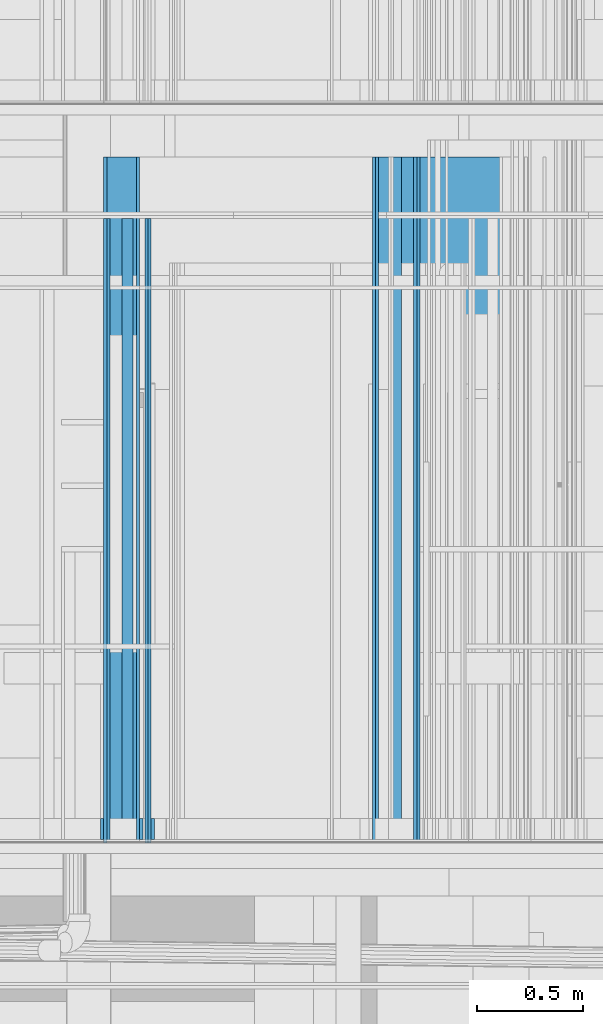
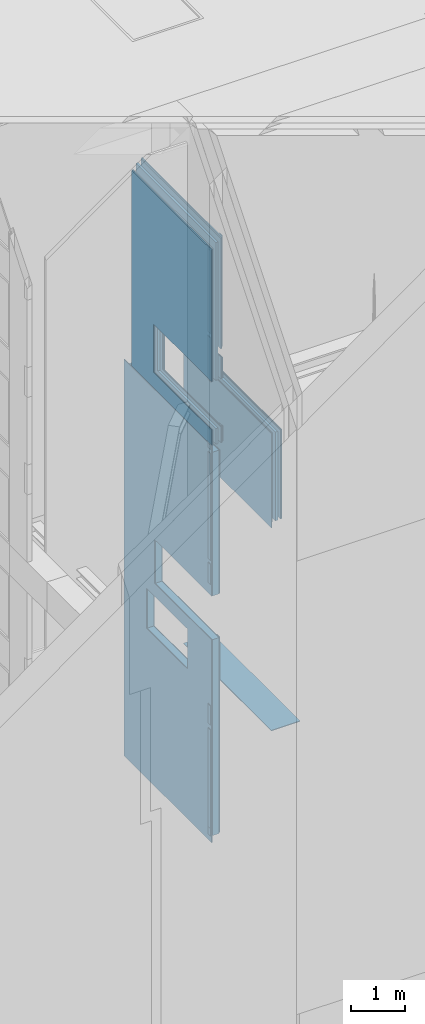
# One storey, part 65 of 583: 28 building element parts, 4 openings, 4 elements without a shape of their own.
"""IFC2X3 building model written with IfcOpenShell, lengths in metres."""

from ifc_helpers import new_model, entity, si_unit, converted_unit, derived_unit, money_unit, direction, frame, frame_2d, origin_with_axes, place, context, subcontext, project, spatial, polyline, rectangle, outline, extrude, material, type_object, element, aggregate, save


model = new_model("IFC2X3")

# Units and contexts
model_context = context("Model", 3, precision=1e-05, world=origin_with_axes(), true_north=direction((0.0, 1.0)))
body_context = subcontext(model_context, "Body", "Model", "MODEL_VIEW", scale=1.0)
ifc_project = project(units=[si_unit("LENGTHUNIT", "METRE"), si_unit("AREAUNIT", "SQUARE_METRE"), si_unit("VOLUMEUNIT", "CUBIC_METRE"), si_unit("ABSORBEDDOSEUNIT", "GRAY"), si_unit("AMOUNTOFSUBSTANCEUNIT", "MOLE"), si_unit("DOSEEQUIVALENTUNIT", "SIEVERT"), si_unit("ELECTRICCAPACITANCEUNIT", "FARAD"), si_unit("ELECTRICCHARGEUNIT", "COULOMB"), si_unit("ELECTRICCONDUCTANCEUNIT", "SIEMENS"), si_unit("ELECTRICCURRENTUNIT", "AMPERE"), si_unit("ELECTRICRESISTANCEUNIT", "OHM"), si_unit("ELECTRICVOLTAGEUNIT", "VOLT"), si_unit("ENERGYUNIT", "JOULE"), si_unit("FORCEUNIT", "NEWTON"), si_unit("FREQUENCYUNIT", "HERTZ"), si_unit("ILLUMINANCEUNIT", "LUX"), si_unit("INDUCTANCEUNIT", "HENRY"), si_unit("LUMINOUSFLUXUNIT", "LUMEN"), si_unit("LUMINOUSINTENSITYUNIT", "CANDELA"), si_unit("MAGNETICFLUXDENSITYUNIT", "TESLA"), si_unit("MAGNETICFLUXUNIT", "WEBER"), si_unit("MASSUNIT", "GRAM"), converted_unit("PLANEANGLEUNIT", "degree", entity("IfcReal", 0.0174532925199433), si_unit("PLANEANGLEUNIT", "RADIAN"), dimensions=[0, 0, 0, 0, 0, 0, 0]), si_unit("POWERUNIT", "WATT"), si_unit("PRESSUREUNIT", "PASCAL"), si_unit("RADIOACTIVITYUNIT", "BECQUEREL"), si_unit("SOLIDANGLEUNIT", "STERADIAN"), si_unit("THERMODYNAMICTEMPERATUREUNIT", "KELVIN"), si_unit("TIMEUNIT", "SECOND"), derived_unit("ACCELERATIONUNIT", [(si_unit("LENGTHUNIT", "METRE"), 1), (si_unit("TIMEUNIT", "SECOND"), -2)]), derived_unit("ANGULARVELOCITYUNIT", [(converted_unit("PLANEANGLEUNIT", "degree", entity("IfcReal", 0.0174532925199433), si_unit("PLANEANGLEUNIT", "RADIAN"), dimensions=[0, 0, 0, 0, 0, 0, 0]), 1), (si_unit("TIMEUNIT", "SECOND"), -1)]), derived_unit("CURVATUREUNIT", [(converted_unit("PLANEANGLEUNIT", "degree", entity("IfcReal", 0.0174532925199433), si_unit("PLANEANGLEUNIT", "RADIAN"), dimensions=[0, 0, 0, 0, 0, 0, 0]), 1), (si_unit("LENGTHUNIT", "METRE"), -1)]), derived_unit("DYNAMICVISCOSITYUNIT", [(si_unit("PRESSUREUNIT", "PASCAL"), 1), (si_unit("TIMEUNIT", "SECOND"), 1)]), derived_unit("HEATFLUXDENSITYUNIT", [(si_unit("POWERUNIT", "WATT"), 1), (si_unit("LENGTHUNIT", "METRE"), -2)]), derived_unit("HEATINGVALUEUNIT", [(si_unit("ENERGYUNIT", "JOULE"), 1), (si_unit("MASSUNIT", "GRAM"), -1)]), derived_unit("INTEGERCOUNTRATEUNIT", [(si_unit("TIMEUNIT", "SECOND"), -1)]), derived_unit("IONCONCENTRATIONUNIT", [(si_unit("MASSUNIT", "GRAM"), 1), (si_unit("VOLUMEUNIT", "CUBIC_METRE"), -1)]), derived_unit("ISOTHERMALMOISTURECAPACITYUNIT", [(si_unit("VOLUMEUNIT", "CUBIC_METRE"), 1), (si_unit("MASSUNIT", "GRAM"), -1)]), derived_unit("KINEMATICVISCOSITYUNIT", [(si_unit("AREAUNIT", "SQUARE_METRE"), 1), (si_unit("TIMEUNIT", "SECOND"), -1)]), derived_unit("LINEARFORCEUNIT", [(si_unit("FORCEUNIT", "NEWTON"), 1), (si_unit("LENGTHUNIT", "METRE"), -1)]), derived_unit("LINEARMOMENTUNIT", [(si_unit("FORCEUNIT", "NEWTON"), 1), (si_unit("LENGTHUNIT", "METRE"), -1)]), derived_unit("LINEARSTIFFNESSUNIT", [(si_unit("FORCEUNIT", "NEWTON"), 1), (si_unit("LENGTHUNIT", "METRE"), -1)]), derived_unit("LINEARVELOCITYUNIT", [(si_unit("LENGTHUNIT", "METRE"), 1), (si_unit("TIMEUNIT", "SECOND"), -1)]), derived_unit("LUMINOUSINTENSITYDISTRIBUTIONUNIT", [(si_unit("LUMINOUSINTENSITYUNIT", "CANDELA"), 1), (si_unit("LUMINOUSFLUXUNIT", "LUMEN"), -1)]), derived_unit("MASSDENSITYUNIT", [(si_unit("MASSUNIT", "GRAM"), 1), (si_unit("VOLUMEUNIT", "CUBIC_METRE"), -1)]), derived_unit("MASSFLOWRATEUNIT", [(si_unit("MASSUNIT", "GRAM"), 1), (si_unit("TIMEUNIT", "SECOND"), -1)]), derived_unit("MASSPERLENGTHUNIT", [(si_unit("MASSUNIT", "GRAM"), 1), (si_unit("LENGTHUNIT", "METRE"), -1)]), derived_unit("MODULUSOFELASTICITYUNIT", [(si_unit("FORCEUNIT", "NEWTON"), 1), (si_unit("AREAUNIT", "SQUARE_METRE"), -1)]), derived_unit("MODULUSOFLINEARSUBGRADEREACTIONUNIT", [(si_unit("FORCEUNIT", "NEWTON"), 1), (si_unit("LENGTHUNIT", "METRE"), -2)]), derived_unit("MODULUSOFROTATIONALSUBGRADEREACTIONUNIT", [(si_unit("FORCEUNIT", "NEWTON"), 1), (si_unit("LENGTHUNIT", "METRE"), 1)]), derived_unit("MODULUSOFSUBGRADEREACTIONUNIT", [(si_unit("FORCEUNIT", "NEWTON"), 1), (si_unit("VOLUMEUNIT", "CUBIC_METRE"), -1)]), derived_unit("MOISTUREDIFFUSIVITYUNIT", [(si_unit("VOLUMEUNIT", "CUBIC_METRE"), 1), (si_unit("TIMEUNIT", "SECOND"), -1)]), derived_unit("MOLECULARWEIGHTUNIT", [(si_unit("MASSUNIT", "GRAM"), 1), (si_unit("AMOUNTOFSUBSTANCEUNIT", "MOLE"), -1)]), derived_unit("PLANARFORCEUNIT", [(si_unit("FORCEUNIT", "NEWTON"), 1), (si_unit("LENGTHUNIT", "METRE"), -2)]), derived_unit("ROTATIONALFREQUENCYUNIT", [(si_unit("TIMEUNIT", "SECOND"), -1)]), derived_unit("ROTATIONALMASSUNIT", [(si_unit("MASSUNIT", "GRAM"), 1), (si_unit("LENGTHUNIT", "METRE"), 2)]), derived_unit("ROTATIONALSTIFFNESSUNIT", [(si_unit("FORCEUNIT", "NEWTON"), 1), (si_unit("LENGTHUNIT", "METRE"), 1), (converted_unit("PLANEANGLEUNIT", "degree", entity("IfcReal", 0.0174532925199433), si_unit("PLANEANGLEUNIT", "RADIAN"), dimensions=[0, 0, 0, 0, 0, 0, 0]), -1)]), derived_unit("SECTIONAREAINTEGRALUNIT", [(si_unit("LENGTHUNIT", "METRE"), 5)]), derived_unit("SECTIONMODULUSUNIT", [(si_unit("LENGTHUNIT", "METRE"), 3)]), derived_unit("SHEARMODULUSUNIT", [(si_unit("FORCEUNIT", "NEWTON"), 1), (si_unit("AREAUNIT", "SQUARE_METRE"), -1)]), derived_unit("SOUNDPOWERUNIT", [(si_unit("ENERGYUNIT", "JOULE"), 1), (si_unit("TIMEUNIT", "SECOND"), -1)]), derived_unit("SPECIFICHEATCAPACITYUNIT", [(si_unit("FORCEUNIT", "NEWTON"), 1), (si_unit("MASSUNIT", "GRAM"), -1), (si_unit("THERMODYNAMICTEMPERATUREUNIT", "KELVIN"), -1)]), derived_unit("TEMPERATUREGRADIENTUNIT", [(si_unit("THERMODYNAMICTEMPERATUREUNIT", "KELVIN"), 1), (si_unit("LENGTHUNIT", "METRE"), -1)]), derived_unit("THERMALADMITTANCEUNIT", [(si_unit("POWERUNIT", "WATT"), 1), (si_unit("AREAUNIT", "SQUARE_METRE"), -1), (si_unit("THERMODYNAMICTEMPERATUREUNIT", "KELVIN"), -1)]), derived_unit("THERMALCONDUCTANCEUNIT", [(si_unit("POWERUNIT", "WATT"), 1), (si_unit("LENGTHUNIT", "METRE"), -1), (si_unit("THERMODYNAMICTEMPERATUREUNIT", "KELVIN"), -1)]), derived_unit("THERMALEXPANSIONCOEFFICIENTUNIT", [(si_unit("THERMODYNAMICTEMPERATUREUNIT", "KELVIN"), -1)]), derived_unit("THERMALRESISTANCEUNIT", [(si_unit("AREAUNIT", "SQUARE_METRE"), 1), (si_unit("POWERUNIT", "WATT"), -1)]), derived_unit("THERMALTRANSMITTANCEUNIT", [(si_unit("POWERUNIT", "WATT"), 1), (si_unit("AREAUNIT", "SQUARE_METRE"), -1), (si_unit("THERMODYNAMICTEMPERATUREUNIT", "KELVIN"), -1)]), derived_unit("TORQUEUNIT", [(si_unit("FORCEUNIT", "NEWTON"), 1), (si_unit("LENGTHUNIT", "METRE"), 1)]), derived_unit("VAPORPERMEABILITYUNIT", [(si_unit("MASSUNIT", "GRAM"), 1), (si_unit("TIMEUNIT", "SECOND"), -1)]), derived_unit("VOLUMETRICFLOWRATEUNIT", [(si_unit("VOLUMEUNIT", "CUBIC_METRE"), 1), (si_unit("TIMEUNIT", "SECOND"), -1)]), derived_unit("WARPINGCONSTANTUNIT", [(si_unit("LENGTHUNIT", "METRE"), 6)]), derived_unit("WARPINGMOMENTUNIT", [(si_unit("FORCEUNIT", "NEWTON"), 1), (si_unit("LENGTHUNIT", "METRE"), 2)]), money_unit("GBP")], contexts=[model_context])

# Site, building, storey
site_placement = place(None, origin_with_axes())
site = spatial("IfcSite", under=ifc_project, at=site_placement, Name="Site", CompositionType="ELEMENT")
building_placement = place(site_placement, origin_with_axes())
building = spatial("IfcBuilding", under=site, at=building_placement, Name="Building01", CompositionType="ELEMENT")
storey_placement = place(building_placement, frame((0.0, 0.0, 20.78), z_axis=(0.0, 0.0, 1.0), x_axis=(1.0, 0.0, 0.0)))
storey = spatial("IfcBuildingStorey", under=building, at=storey_placement, Name="RL", CompositionType="ELEMENT", Elevation=20.78)

# Wall, building element part
wall_type_1 = type_object("IfcWallType", Name="SHE_A-Walls_Type03a_BlockworkWall_170mm", PredefinedType="NOTDEFINED")
wall_1_placement = place(storey_placement, frame((6.275, 5.15, -9.635), z_axis=(0.0, 1.0, 0.0), x_axis=(1.0, 0.0, 0.0)))
wall_1 = element("IfcWall", 1, at=wall_1_placement, inside=storey, type_object=wall_type_1, Name="4B", ObjectType="SHE_A-Walls_Type03a_BlockworkWall_170mm")
ifc_material_1 = material(Name="A_BSUK_WallInternal_Finishes_Plaster")
building_element_part_1_placement = place(wall_1_placement, origin_with_axes())
building_element_part_1 = element("IfcBuildingElementPart", 2, at=building_element_part_1_placement, material=ifc_material_1, Name="3", context=body_context, shape_type="SweptSolid", body=[
    extrude(outline(polyline([(0.575, 0.015), (-0.025, 0.015), (-0.025, 0.0), (0.59, 0.0), (0.575, 0.015)])), origin_with_axes(), (0.0, 0.0, 1.0), 3.24),
])
aggregate(wall_1, [building_element_part_1])

# Wall, openings, building element parts
wall_type_2 = type_object("IfcWallType", Name="SHE_A-Walls_Type01c_Partywall_225mm_twin_tall", PredefinedType="NOTDEFINED")
wall_2_placement = place(storey_placement, frame((5.068, 5.15, -2.78), z_axis=(0.0, 1.0, 0.0), x_axis=(0.0, 0.0, 1.0)))
wall_2 = element("IfcWall", 3, at=wall_2_placement, inside=storey, type_object=wall_type_2, Name="1C", ObjectType="SHE_A-Walls_Type01c_Partywall_225mm_twin_tall")
opening_1_placement = place(wall_2_placement, frame((0.35, -0.475, -0.03), z_axis=(0.0, 0.0, 1.0), x_axis=(1.0, 0.0, 0.0)))
element("IfcOpeningElement", 4, at=opening_1_placement, cuts=wall_2, Name="Opening", ObjectType="Opening", context=body_context, shape_type="SweptSolid", body=[
    extrude(rectangle(XDim=1.084, YDim=2.142, at=frame_2d((0.542, 1.071), x_axis=(-1.0, 0.0))), frame((0.0, 0.7875, 0.0), z_axis=(0.0, -1.0, 0.0), x_axis=(1.0, 0.0, 0.0)), (0.0, 0.0, 1.0), 1.575),
])
opening_2_placement = place(wall_2_placement, frame((0.35, -0.088, 0.0), z_axis=(0.0, 0.0, 1.0), x_axis=(1.0, 0.0, 0.0)))
element("IfcOpeningElement", 5, at=opening_2_placement, cuts=wall_2, Name="Opening", ObjectType="Opening", context=body_context, shape_type="SweptSolid", body=[
    extrude(rectangle(XDim=2.142, YDim=1.084, at=frame_2d((0.542, 1.071), x_axis=(0.0, -1.0))), frame((0.0, 0.207, 0.0), z_axis=(0.0, -1.0, 0.0), x_axis=(1.0, 0.0, 0.0)), (0.0, 0.0, 1.0), 0.414),
])
ifc_material_2 = material(Name="A_BSUK_Insulation")
placement_1 = place(wall_2_placement, origin_with_axes())
building_element_part_2 = element("IfcBuildingElementPart", 6, at=placement_1, material=ifc_material_2, Name="1", context=body_context, shape_type="SweptSolid", body=[
    extrude(rectangle(XDim=4.538, YDim=0.05, at=frame_2d((2.269, 0.025), x_axis=(-1.0, 0.0))), origin_with_axes(), (0.0, 0.0, 1.0), 2.95),
])
ifc_material_3 = material(Name="A_BSUK_Walls_Timber")
building_element_part_3 = element("IfcBuildingElementPart", 7, at=placement_1, material=ifc_material_3, Name="2", context=body_context, shape_type="SweptSolid", body=[
    extrude(outline(polyline([(1.897661, 0.152), (0.015, 0.152), (0.0, 0.137), (1.897661, 0.137), (1.897661, 0.152)])), frame((0.0, 0.0, 0.015), z_axis=(0.0, 0.0, 1.0), x_axis=(1.0, 0.0, 0.0)), (0.0, 0.0, 1.0), 0.1),
])
ifc_material_4 = material(Name="A_BSUK_WallInternal_Finishes_Plasterboard")
building_element_part_4 = element("IfcBuildingElementPart", 8, at=placement_1, material=ifc_material_4, Name="3", context=body_context, shape_type="SweptSolid", body=[
    extrude(rectangle(XDim=1.912661, YDim=0.015, at=frame_2d((0.956331, 0.1295), x_axis=(-1.0, 0.0))), origin_with_axes(), (0.0, 0.0, 1.0), 2.95),
])
building_element_part_5 = element("IfcBuildingElementPart", 9, at=placement_1, material=ifc_material_4, Name="4", context=body_context, shape_type="SweptSolid", body=[
    extrude(rectangle(XDim=1.927661, YDim=0.015, at=frame_2d((0.963831, 0.1145), x_axis=(-1.0, 0.0))), origin_with_axes(), (0.0, 0.0, 1.0), 2.95),
])
building_element_part_6 = element("IfcBuildingElementPart", 10, at=placement_1, material=ifc_material_4, Name="5", context=body_context, shape_type="SweptSolid", body=[
    extrude(outline(polyline([(4.43, -0.058), (0.0, -0.058), (0.0, -0.073), (4.415, -0.073), (4.43, -0.058)])), origin_with_axes(), (0.0, 0.0, 1.0), 2.95),
])
building_element_part_7 = element("IfcBuildingElementPart", 11, at=placement_1, material=ifc_material_4, Name="6", context=body_context, shape_type="SweptSolid", body=[
    extrude(outline(polyline([(4.415, -0.073), (0.0, -0.073), (0.0, -0.088), (4.4, -0.088), (4.415, -0.073)])), origin_with_axes(), (0.0, 0.0, 1.0), 2.95),
])
building_element_part_8 = element("IfcBuildingElementPart", 12, at=placement_1, material=ifc_material_3, Name="7", context=body_context, shape_type="SweptSolid", body=[
    extrude(rectangle(XDim=2.415, YDim=0.015, at=frame_2d((1.2075, -0.0955), x_axis=(-1.0, 0.0))), frame((0.0, 0.0, 0.015), z_axis=(0.0, 0.0, 1.0), x_axis=(1.0, 0.0, 0.0)), (0.0, 0.0, 1.0), 0.1),
])
building_element_part_9 = element("IfcBuildingElementPart", 13, at=placement_1, material=ifc_material_4, Name="8", context=body_context, shape_type="SweptSolid", body=[
    extrude(outline(polyline([(4.415, -0.073), (0.0, -0.073), (0.0, -0.088), (4.4, -0.088), (4.415, -0.073)])), origin_with_axes(), (0.0, 0.0, 1.0), 2.95),
])
building_element_part_10 = element("IfcBuildingElementPart", 14, at=placement_1, material=ifc_material_3, Name="9", context=body_context, shape_type="SweptSolid", body=[
    extrude(outline(polyline([(4.64, 0.152), (2.137661, 0.152), (2.137661, 0.137), (4.625, 0.137), (4.64, 0.152)])), frame((0.0, 0.0, 0.015), z_axis=(0.0, 0.0, 1.0), x_axis=(1.0, 0.0, 0.0)), (0.0, 0.0, 1.0), 0.1),
])
building_element_part_11 = element("IfcBuildingElementPart", 15, at=placement_1, material=ifc_material_4, Name="10", context=body_context, shape_type="SweptSolid", body=[
    extrude(outline(polyline([(4.625, 0.137), (2.107661, 0.137), (2.107661, 0.122), (4.61, 0.122), (4.625, 0.137)])), origin_with_axes(), (0.0, 0.0, 1.0), 2.95),
])
building_element_part_12 = element("IfcBuildingElementPart", 16, at=placement_1, material=ifc_material_4, Name="11", context=body_context, shape_type="SweptSolid", body=[
    extrude(outline(polyline([(4.61, 0.122), (2.107661, 0.122), (2.107661, 0.107), (4.595, 0.107), (4.61, 0.122)])), origin_with_axes(), (0.0, 0.0, 1.0), 2.95),
])
building_element_part_13 = element("IfcBuildingElementPart", 17, at=placement_1, material=ifc_material_3, Name="12", context=body_context, shape_type="SweptSolid", body=[
    extrude(outline(polyline([(4.4, -0.088), (2.51, -0.088), (2.51, -0.103), (4.385, -0.103), (4.4, -0.088)])), frame((0.0, 0.0, 0.015), z_axis=(0.0, 0.0, 1.0), x_axis=(1.0, 0.0, 0.0)), (0.0, 0.0, 1.0), 0.1),
])
aggregate(wall_2, [building_element_part_2, building_element_part_3, building_element_part_4, building_element_part_5, building_element_part_6, building_element_part_7, building_element_part_8, building_element_part_9, building_element_part_10, building_element_part_11, building_element_part_12, building_element_part_13])

# Wall, building element parts
wall_3_placement = place(storey_placement, frame((6.337, 5.15, -2.95), z_axis=(0.0, 1.0, 0.0), x_axis=(0.0, 0.0, -1.0)))
wall_3 = element("IfcWall", 18, at=wall_3_placement, inside=storey, type_object=wall_type_2, Name="1C", ObjectType="SHE_A-Walls_Type01c_Partywall_225mm_twin_tall")
placement_2 = place(wall_3_placement, origin_with_axes())
building_element_part_14 = element("IfcBuildingElementPart", 19, at=placement_2, material=ifc_material_2, Name="1", context=body_context, shape_type="SweptSolid", body=[
    extrude(rectangle(XDim=2.0, YDim=0.05, at=frame_2d((1.0, -0.025), x_axis=(-1.0, 0.0))), origin_with_axes(), (0.0, 0.0, 1.0), 3.24),
])
building_element_part_15 = element("IfcBuildingElementPart", 20, at=placement_2, material=ifc_material_4, Name="3", context=body_context, shape_type="SweptSolid", body=[
    extrude(rectangle(XDim=2.13, YDim=0.015, at=frame_2d((1.065, 0.0795), x_axis=(-1.0, 0.0))), origin_with_axes(), (0.0, 0.0, 1.0), 3.24),
])
building_element_part_16 = element("IfcBuildingElementPart", 21, at=placement_2, material=ifc_material_4, Name="4", context=body_context, shape_type="SweptSolid", body=[
    extrude(rectangle(XDim=2.0, YDim=0.015, at=frame_2d((1.0, 0.0645), x_axis=(-1.0, 0.0))), origin_with_axes(), (0.0, 0.0, 1.0), 3.24),
])
building_element_part_17 = element("IfcBuildingElementPart", 22, at=placement_2, material=ifc_material_4, Name="5", context=body_context, shape_type="SweptSolid", body=[
    extrude(rectangle(XDim=2.0, YDim=0.015, at=frame_2d((1.0, -0.1155), x_axis=(-1.0, 0.0))), origin_with_axes(), (0.0, 0.0, 1.0), 3.24),
])
building_element_part_18 = element("IfcBuildingElementPart", 23, at=placement_2, material=ifc_material_4, Name="6", context=body_context, shape_type="SweptSolid", body=[
    extrude(outline(polyline([(2.0, -0.123), (-0.015, -0.123), (-0.015, -0.138), (1.985, -0.138), (2.0, -0.123)])), origin_with_axes(), (0.0, 0.0, 1.0), 3.24),
])
aggregate(wall_3, [building_element_part_14, building_element_part_15, building_element_part_16, building_element_part_17, building_element_part_18])

# Wall, openings, building element parts
wall_4_placement = place(storey_placement, frame((4.995, 5.15, -11.565), z_axis=(0.0, 1.0, 0.0), x_axis=(0.0, 0.0, 1.0)))
wall_4 = element("IfcWall", 24, at=wall_4_placement, inside=storey, type_object=wall_type_1, Name="4B", ObjectType="SHE_A-Walls_Type03a_BlockworkWall_170mm")
opening_3_placement = place(wall_4_placement, frame((3.218, 0.199761, 0.9), z_axis=(0.0, 0.0, 1.0), x_axis=(1.0, 0.0, 0.0)))
element("IfcOpeningElement", 25, at=opening_3_placement, cuts=wall_4, Name="Opening", ObjectType="Opening", context=body_context, shape_type="SweptSolid", body=[
    extrude(rectangle(XDim=0.9, YDim=1.5, at=frame_2d((-0.45, 0.75), x_axis=(-1.0, 0.0))), frame((0.0, -10.524281, 0.0), z_axis=(0.0, 1.0, 0.0), x_axis=(-1.0, 0.0, 0.0)), (0.0, 0.0, 1.0), 21.048563),
])
opening_4_placement = place(wall_4_placement, frame((4.41, 0.15885, 0.0), z_axis=(0.0, 0.0, 1.0), x_axis=(1.0, 0.0, 0.0)))
element("IfcOpeningElement", 26, at=opening_4_placement, cuts=wall_4, Name="Opening", ObjectType="Opening", context=body_context, shape_type="SweptSolid", body=[
    extrude(rectangle(XDim=0.984, YDim=2.1, at=frame_2d((-0.492, 1.05), x_axis=(-1.0, 0.0))), frame((0.0, -10.430351, 0.0), z_axis=(0.0, 1.0, 0.0), x_axis=(-1.0, 0.0, 0.0)), (0.0, 0.0, 1.0), 20.860703),
])
ifc_material_5 = material(Name="A_BSUK_WallsInternal_Block")
placement_3 = place(wall_4_placement, origin_with_axes())
building_element_part_19 = element("IfcBuildingElementPart", 27, at=placement_3, material=ifc_material_5, Name="1", context=body_context, shape_type="SweptSolid", body=[
    extrude(rectangle(XDim=8.63, YDim=0.14, at=frame_2d((4.315, 0.07), x_axis=(-1.0, 0.0))), origin_with_axes(), (0.0, 0.0, 1.0), 3.24),
])
building_element_part_20 = element("IfcBuildingElementPart", 28, at=placement_3, material=ifc_material_3, Name="2", context=body_context, shape_type="SweptSolid", body=[
    extrude(rectangle(XDim=8.6, YDim=0.015, at=frame_2d((4.315, 0.1625), x_axis=(-1.0, 0.0))), frame((0.0, 0.0, 0.015), z_axis=(0.0, 0.0, 1.0), x_axis=(1.0, 0.0, 0.0)), (0.0, 0.0, 1.0), 0.1),
])
building_element_part_21 = element("IfcBuildingElementPart", 29, at=placement_3, material=ifc_material_1, Name="3", context=body_context, shape_type="SweptSolid", body=[
    extrude(rectangle(XDim=8.615, YDim=0.015, at=frame_2d((4.3225, 0.1475), x_axis=(-1.0, 0.0))), origin_with_axes(), (0.0, 0.0, 1.0), 3.24),
])
building_element_part_22 = element("IfcBuildingElementPart", 30, at=placement_3, material=ifc_material_4, Name="4", context=body_context, shape_type="SweptSolid", body=[
    extrude(rectangle(XDim=8.925, YDim=0.015, at=frame_2d((4.3075, -0.0075), x_axis=(-1.0, 0.0))), origin_with_axes(), (0.0, 0.0, 1.0), 3.24),
])
building_element_part_23 = element("IfcBuildingElementPart", 31, at=placement_3, material=ifc_material_3, Name="5", context=body_context, shape_type="SweptSolid", body=[
    extrude(rectangle(XDim=0.169464, YDim=0.015, at=frame_2d((0.077268, -0.0225), x_axis=(-1.0, 0.0))), frame((0.0, 0.0, 0.015), z_axis=(0.0, 0.0, 1.0), x_axis=(1.0, 0.0, 0.0)), (0.0, 0.0, 1.0), 0.1),
])
building_element_part_24 = element("IfcBuildingElementPart", 32, at=placement_3, material=ifc_material_3, Name="6", context=body_context, shape_type="SweptSolid", body=[
    extrude(rectangle(XDim=0.4475, YDim=0.015, at=frame_2d((5.87375, -0.0225), x_axis=(-1.0, 0.0))), frame((0.0, 0.0, 0.015), z_axis=(0.0, 0.0, 1.0), x_axis=(1.0, 0.0, 0.0)), (0.0, 0.0, 1.0), 0.1),
])
building_element_part_25 = element("IfcBuildingElementPart", 33, at=placement_3, material=ifc_material_3, Name="7", context=body_context, shape_type="SweptSolid", body=[
    extrude(rectangle(XDim=0.015, YDim=0.0975, at=frame_2d((8.73625, -0.0225), x_axis=(0.0, -1.0))), frame((0.0, 0.0, 0.015), z_axis=(0.0, 0.0, 1.0), x_axis=(1.0, 0.0, 0.0)), (0.0, 0.0, 1.0), 0.1),
])
building_element_part_26 = element("IfcBuildingElementPart", 34, at=placement_3, material=ifc_material_3, Name="8", context=body_context, shape_type="SweptSolid", body=[
    extrude(rectangle(XDim=2.385, YDim=0.015, at=frame_2d((1.185036, -0.0225), x_axis=(-1.0, 0.0))), frame((0.0, 0.0, 0.015), z_axis=(0.0, 0.0, 1.0), x_axis=(1.0, 0.0, 0.0)), (0.0, 0.0, 1.0), 0.1),
])
building_element_part_27 = element("IfcBuildingElementPart", 35, at=placement_3, material=ifc_material_3, Name="9", context=body_context, shape_type="SweptSolid", body=[
    extrude(rectangle(XDim=2.4, YDim=0.015, at=frame_2d((7.3925, -0.0225), x_axis=(-1.0, 0.0))), frame((0.0, 0.0, 0.015), z_axis=(0.0, 0.0, 1.0), x_axis=(1.0, 0.0, 0.0)), (0.0, 0.0, 1.0), 0.1),
])
building_element_part_28 = element("IfcBuildingElementPart", 36, at=placement_3, material=ifc_material_3, Name="10", context=body_context, shape_type="SweptSolid", body=[
    extrude(rectangle(XDim=0.432464, YDim=0.015, at=frame_2d((2.703768, -0.0225), x_axis=(-1.0, 0.0))), frame((0.0, 0.0, 0.015), z_axis=(0.0, 0.0, 1.0), x_axis=(1.0, 0.0, 0.0)), (0.0, 0.0, 1.0), 0.1),
])
aggregate(wall_4, [building_element_part_19, building_element_part_20, building_element_part_21, building_element_part_22, building_element_part_23, building_element_part_24, building_element_part_25, building_element_part_26, building_element_part_27, building_element_part_28])

save(model, "model.ifc")
